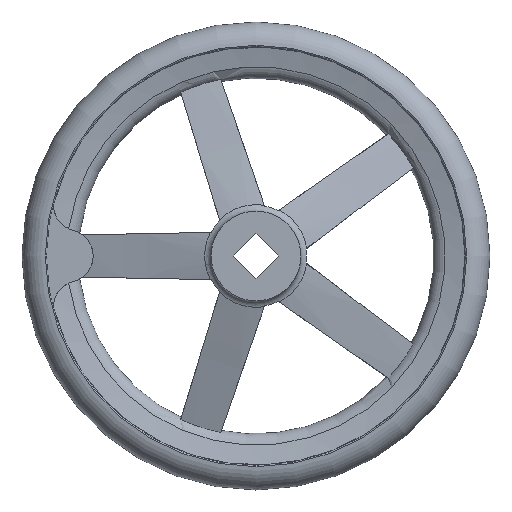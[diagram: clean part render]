
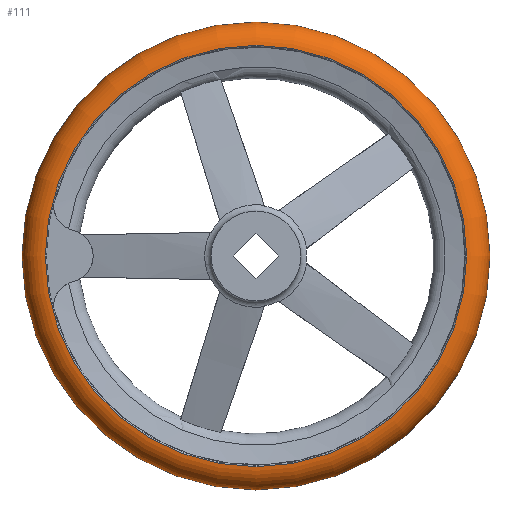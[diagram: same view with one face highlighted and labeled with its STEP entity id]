
A CAD part, left-side view. The second image highlights one B-rep face of the part: STEP entity #111.
In plain terms, the highlighted toroidal (fillet/blend) face has major radius 111.988 mm and minor radius 13.012 mm.
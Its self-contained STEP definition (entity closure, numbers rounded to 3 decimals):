
#111 = ADVANCED_FACE( '', ( #216, #217, #218 ), #219, .T. );
#216 = FACE_BOUND( '', #340, .T. );
#217 = FACE_OUTER_BOUND( '', #341, .T. );
#218 = FACE_OUTER_BOUND( '', #342, .T. );
#219 = TOROIDAL_SURFACE( '', #343, 111.988, 13.012 );
#340 = VERTEX_LOOP( '', #692 );
#341 = EDGE_LOOP( '', ( #693 ) );
#342 = EDGE_LOOP( '', ( #694 ) );
#343 = AXIS2_PLACEMENT_3D( '', #695, #696, #697 );
#692 = VERTEX_POINT( '', #945 );
#693 = ORIENTED_EDGE( '', *, *, #944, .T. );
#694 = ORIENTED_EDGE( '', *, *, #936, .F. );
#695 = CARTESIAN_POINT( '', ( 37., 0., 0. ) );
#696 = DIRECTION( '', ( 1., 0., 0. ) );
#697 = DIRECTION( '', ( 0., 1., 0. ) );
#936 = EDGE_CURVE( '', #1167, #1167, #1168, .T. );
#944 = EDGE_CURVE( '', #1179, #1179, #1180, .T. );
#945 = CARTESIAN_POINT( '', ( 37., 125., 0. ) );
#1167 = VERTEX_POINT( '', #1984 );
#1168 = CIRCLE( '', #1985, 112.542 );
#1179 = VERTEX_POINT( '', #2034 );
#1180 = CIRCLE( '', #2035, 112.542 );
#1984 = CARTESIAN_POINT( '', ( 50., 112.542, 0. ) );
#1985 = AXIS2_PLACEMENT_3D( '', #2200, #2201, #2202 );
#2034 = CARTESIAN_POINT( '', ( 24., 112.542, 0. ) );
#2035 = AXIS2_PLACEMENT_3D( '', #2218, #2219, #2220 );
#2200 = CARTESIAN_POINT( '', ( 50., 0., 0. ) );
#2201 = DIRECTION( '', ( 1., 0., 0. ) );
#2202 = DIRECTION( '', ( 0., 1., 0. ) );
#2218 = CARTESIAN_POINT( '', ( 24., 0., 0. ) );
#2219 = DIRECTION( '', ( 1., 0., 0. ) );
#2220 = DIRECTION( '', ( 0., 1., 0. ) );
